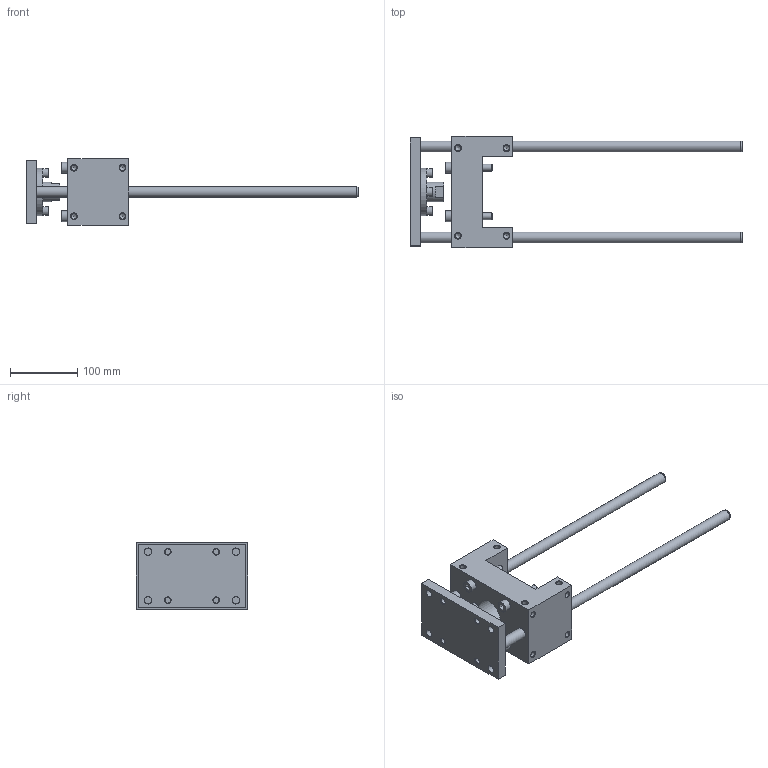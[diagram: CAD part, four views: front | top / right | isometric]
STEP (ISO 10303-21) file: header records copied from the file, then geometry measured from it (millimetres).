
FILE_DESCRIPTION( ( 'STEP AP214' ), '1' );
FILE_NAME( 'U:/Etudes/Top Solid/BIBLIO 3D AVM/TOP/PNEUMATIQUE/GUIDAGES/Type 34 (en U)/_Légère/3486130.step', '2005-05-27T12:35:51', ( ' ' ), ( ' ' ), 'XStep 1.0', ' ', ' ' );
FILE_SCHEMA( ( 'automotive_design' ) );
Length unit declared in the file: metre
Products named in the file (2): 1; 2
Bounding box: 492 x 165 x 98 mm (x, y, z)
Volume: 1331181.9 mm3; surface area: 215368 mm2
Topology: 2 solids, 7 shells, 245 faces, 598 edges, 389 vertices
Faces by surface type: plane 108, cylinder 92, cone 45
Full cylindrical faces by diameter (mm): 4.918 x4, 8 x8, 8.376 x32, 8.5 x4, 10 x8, 11 x8, 13 x4, 16 x8, 18.376 x2, 29 x1, 32 x1, 42 x1, 45 x2, 70 x1
Entity records: 8253 total; most frequent: CARTESIAN_POINT 1235, DIRECTION 1080, ORIENTED_EDGE 790, AXIS2_PLACEMENT_3D 446, EDGE_LOOP 436, EDGE_CURVE 395, FACE_OUTER_BOUND 329, VERTEX_POINT 329
